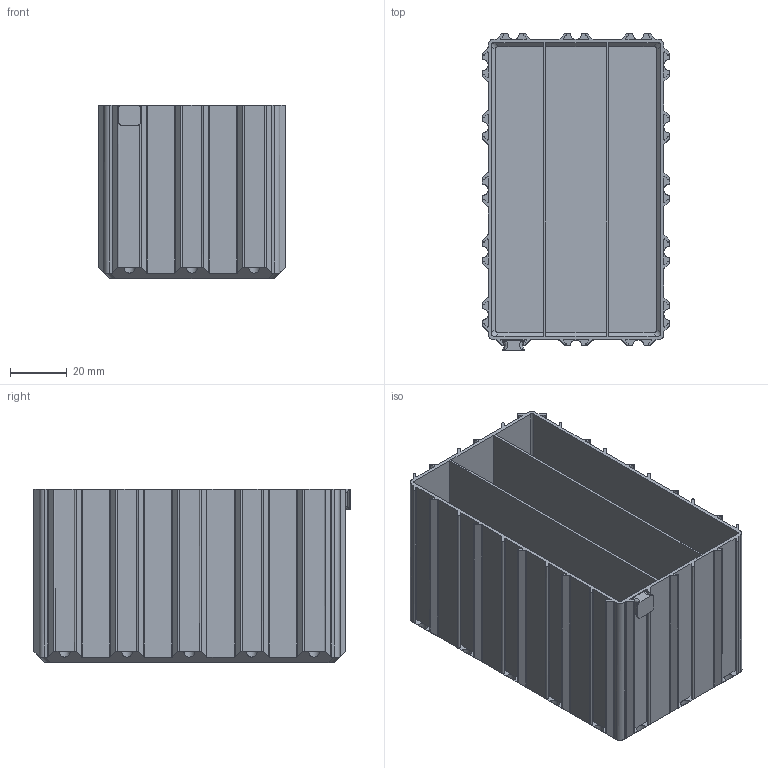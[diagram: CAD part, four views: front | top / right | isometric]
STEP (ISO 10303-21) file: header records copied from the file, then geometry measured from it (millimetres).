
FILE_DESCRIPTION(/* description */ (''),/* implementation_level */ '2;1');
FILE_NAME(/* name */ 'BOX_x03_y04_z060_txn_ty0.stp',/* time_stamp */ '2024-02-16T08:36:42+01:00',/* author */ ('ott'),/* organization */ (''),/* preprocessor_version */ 'ST-DEVELOPER v19.2',/* originating_system */ 'Autodesk Inventor 2023',/* authorisation */ '');
FILE_SCHEMA (('AUTOMOTIVE_DESIGN { 1 0 10303 214 3 1 1 }'));
Length unit declared in the file: millimetre
Products named in the file (1): BOX_x03_y04_z060_txn_ty0
Bounding box: 66 x 111.8 x 61.2 mm (x, y, z)
Volume: 45406.1 mm3; surface area: 85175.3 mm2
Topology: 2 solids, 2 shells, 305 faces, 864 edges, 566 vertices
Faces by surface type: plane 173, cylinder 128, torus 4
Entity records: 10374 total; most frequent: CARTESIAN_POINT 1828, DIRECTION 1772, ORIENTED_EDGE 1728, EDGE_CURVE 864, AXIS2_PLACEMENT_3D 610, VERTEX_POINT 566, LINE 552, VECTOR 552
